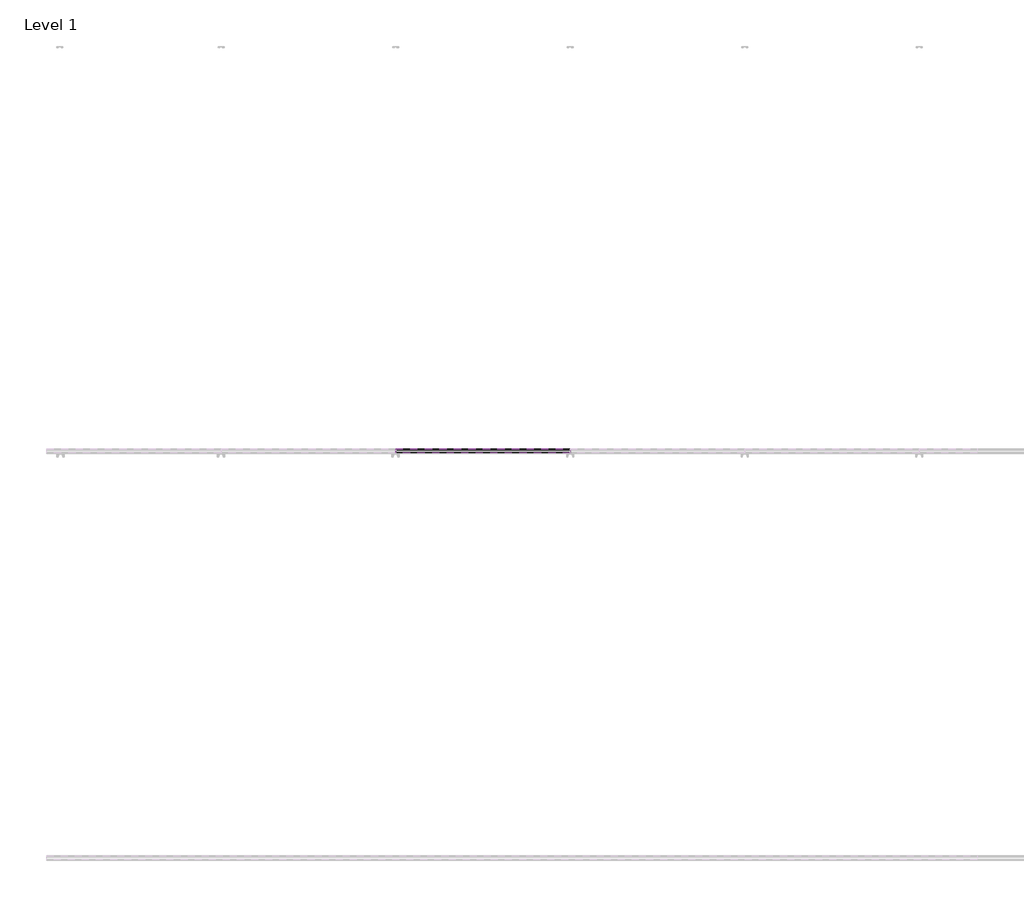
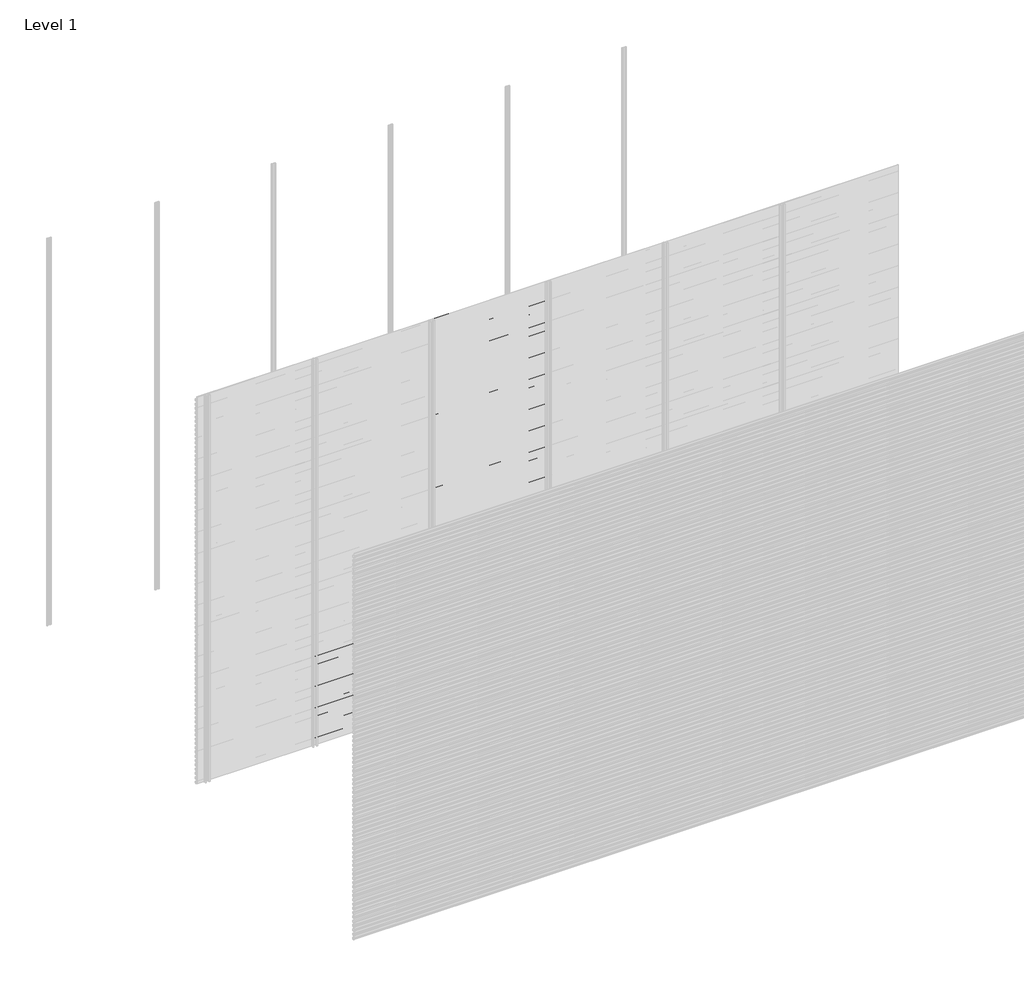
# One storey, part 82 of 96: 76 proxies.
"""IFC4 building model written with IfcOpenShell, lengths in millimetres."""

from ifc_helpers import new_model, si_unit, frame, origin, place, context, project, spatial, polyline, outline, extrude, element, save

model = new_model("IFC4")

# Units and contexts
model_context = context("Model", 3, world=origin())
ifc_project = project(units=[si_unit("LENGTHUNIT", "METRE", prefix="MILLI")], contexts=[model_context])

# Site, building, storey
site = spatial("IfcSite", under=ifc_project)
building = spatial("IfcBuilding", under=site)
storey = spatial("IfcBuildingStorey", under=building, Name="Level 1", Elevation=0.0)

# Proxies
placement = place(None, origin())
element("IfcBuildingElementProxy", 1, Name="Wall Sweeps", at=placement, inside=storey, context=model_context, shape_type="SweptSolid", body=[
    extrude(outline(polyline([(-5977.6, 674.0655033), (-5977.6, 659.7779188), (-5982.4114965, 657.0), (-5982.4114965, 658.2701706), (-5978.85, 660.3264016), (-5978.85, 673.3437382), (-5998.0, 684.4000799), (-5998.0, 699.3), (-5996.75, 699.3), (-5996.75, 685.1217609), (-5977.6, 674.0655033)])), frame((857.1428571, 0.0, 0.0), z_axis=(1.0, 0.0, 0.0), x_axis=(0.0, 1.0, 0.0)), (0.0, 0.0, 1.0), 857.1428571),
])
element("IfcBuildingElementProxy", 2, Name="Wall Sweeps", at=placement, inside=storey, context=model_context, shape_type="SweptSolid", body=[
    extrude(outline(polyline([(-5977.6, 640.7655033), (-5977.6, 626.4779188), (-5982.4114965, 623.7), (-5982.4114965, 624.9701706), (-5978.85, 627.0264016), (-5978.85, 640.0437382), (-5998.0, 651.1000799), (-5998.0, 666.0), (-5996.75, 666.0), (-5996.75, 651.8217609), (-5977.6, 640.7655033)])), frame((857.1428571, 0.0, 0.0), z_axis=(1.0, 0.0, 0.0), x_axis=(0.0, 1.0, 0.0)), (0.0, 0.0, 1.0), 857.1428571),
])
element("IfcBuildingElementProxy", 3, Name="Wall Sweeps", at=placement, inside=storey, context=model_context, shape_type="SweptSolid", body=[
    extrude(outline(polyline([(-5977.6, 607.4655033), (-5977.6, 593.1779188), (-5982.4114965, 590.4), (-5982.4114965, 591.6701706), (-5978.85, 593.7264016), (-5978.85, 606.7437382), (-5998.0, 617.8000799), (-5998.0, 632.7), (-5996.75, 632.7), (-5996.75, 618.5217609), (-5977.6, 607.4655033)])), frame((857.1428571, 0.0, 0.0), z_axis=(1.0, 0.0, 0.0), x_axis=(0.0, 1.0, 0.0)), (0.0, 0.0, 1.0), 857.1428571),
])
element("IfcBuildingElementProxy", 4, Name="Wall Sweeps", at=placement, inside=storey, context=model_context, shape_type="SweptSolid", body=[
    extrude(outline(polyline([(-5977.6, 574.1655033), (-5977.6, 559.8779188), (-5982.4114965, 557.1), (-5982.4114965, 558.3701706), (-5978.85, 560.4264016), (-5978.85, 573.4437382), (-5998.0, 584.5000799), (-5998.0, 599.4), (-5996.75, 599.4), (-5996.75, 585.2217609), (-5977.6, 574.1655033)])), frame((857.1428571, 0.0, 0.0), z_axis=(1.0, 0.0, 0.0), x_axis=(0.0, 1.0, 0.0)), (0.0, 0.0, 1.0), 857.1428571),
])
element("IfcBuildingElementProxy", 5, Name="Wall Sweeps", at=placement, inside=storey, context=model_context, shape_type="SweptSolid", body=[
    extrude(outline(polyline([(-5977.6, 540.8655033), (-5977.6, 526.5779188), (-5982.4114965, 523.8), (-5982.4114965, 525.0701706), (-5978.85, 527.1264016), (-5978.85, 540.1437382), (-5998.0, 551.2000799), (-5998.0, 566.1), (-5996.75, 566.1), (-5996.75, 551.9217609), (-5977.6, 540.8655033)])), frame((857.1428571, 0.0, 0.0), z_axis=(1.0, 0.0, 0.0), x_axis=(0.0, 1.0, 0.0)), (0.0, 0.0, 1.0), 857.1428571),
])
element("IfcBuildingElementProxy", 6, Name="Wall Sweeps", at=placement, inside=storey, context=model_context, shape_type="SweptSolid", body=[
    extrude(outline(polyline([(-5977.6, 507.5655033), (-5977.6, 493.2779188), (-5982.4114965, 490.5), (-5982.4114965, 491.7701706), (-5978.85, 493.8264016), (-5978.85, 506.8437382), (-5998.0, 517.9000799), (-5998.0, 532.8), (-5996.75, 532.8), (-5996.75, 518.6217609), (-5977.6, 507.5655033)])), frame((857.1428571, 0.0, 0.0), z_axis=(1.0, 0.0, 0.0), x_axis=(0.0, 1.0, 0.0)), (0.0, 0.0, 1.0), 857.1428571),
])
element("IfcBuildingElementProxy", 7, Name="Wall Sweeps", at=placement, inside=storey, context=model_context, shape_type="SweptSolid", body=[
    extrude(outline(polyline([(-5977.6, 474.2655033), (-5977.6, 459.9779188), (-5982.4114965, 457.2), (-5982.4114965, 458.4701706), (-5978.85, 460.5264016), (-5978.85, 473.5437382), (-5998.0, 484.6000799), (-5998.0, 499.5), (-5996.75, 499.5), (-5996.75, 485.3217609), (-5977.6, 474.2655033)])), frame((857.1428571, 0.0, 0.0), z_axis=(1.0, 0.0, 0.0), x_axis=(0.0, 1.0, 0.0)), (0.0, 0.0, 1.0), 857.1428571),
])
element("IfcBuildingElementProxy", 8, Name="Wall Sweeps", at=placement, inside=storey, context=model_context, shape_type="SweptSolid", body=[
    extrude(outline(polyline([(-5977.6, 440.9655033), (-5977.6, 426.6779188), (-5982.4114965, 423.9), (-5982.4114965, 425.1701706), (-5978.85, 427.2264016), (-5978.85, 440.2437382), (-5998.0, 451.3000799), (-5998.0, 466.2), (-5996.75, 466.2), (-5996.75, 452.0217609), (-5977.6, 440.9655033)])), frame((857.1428571, 0.0, 0.0), z_axis=(1.0, 0.0, 0.0), x_axis=(0.0, 1.0, 0.0)), (0.0, 0.0, 1.0), 857.1428571),
])
element("IfcBuildingElementProxy", 9, Name="Wall Sweeps", at=placement, inside=storey, context=model_context, shape_type="SweptSolid", body=[
    extrude(outline(polyline([(-5977.6, 407.6655033), (-5977.6, 393.3779188), (-5982.4114965, 390.6), (-5982.4114965, 391.8701706), (-5978.85, 393.9264016), (-5978.85, 406.9437382), (-5998.0, 418.0000799), (-5998.0, 432.9), (-5996.75, 432.9), (-5996.75, 418.7217609), (-5977.6, 407.6655033)])), frame((857.1428571, 0.0, 0.0), z_axis=(1.0, 0.0, 0.0), x_axis=(0.0, 1.0, 0.0)), (0.0, 0.0, 1.0), 857.1428571),
])
element("IfcBuildingElementProxy", 10, Name="Wall Sweeps", at=placement, inside=storey, context=model_context, shape_type="SweptSolid", body=[
    extrude(outline(polyline([(-5977.6, 374.3655033), (-5977.6, 360.0779188), (-5982.4114965, 357.3), (-5982.4114965, 358.5701706), (-5978.85, 360.6264016), (-5978.85, 373.6437382), (-5998.0, 384.7000799), (-5998.0, 399.6), (-5996.75, 399.6), (-5996.75, 385.4217609), (-5977.6, 374.3655033)])), frame((857.1428571, 0.0, 0.0), z_axis=(1.0, 0.0, 0.0), x_axis=(0.0, 1.0, 0.0)), (0.0, 0.0, 1.0), 857.1428571),
])
element("IfcBuildingElementProxy", 11, Name="Wall Sweeps", at=placement, inside=storey, context=model_context, shape_type="SweptSolid", body=[
    extrude(outline(polyline([(-5977.6, 341.0655033), (-5977.6, 326.7779188), (-5982.4114965, 324.0), (-5982.4114965, 325.2701706), (-5978.85, 327.3264016), (-5978.85, 340.3437382), (-5998.0, 351.4000799), (-5998.0, 366.3), (-5996.75, 366.3), (-5996.75, 352.1217609), (-5977.6, 341.0655033)])), frame((857.1428571, 0.0, 0.0), z_axis=(1.0, 0.0, 0.0), x_axis=(0.0, 1.0, 0.0)), (0.0, 0.0, 1.0), 857.1428571),
])
element("IfcBuildingElementProxy", 12, Name="Wall Sweeps", at=placement, inside=storey, context=model_context, shape_type="SweptSolid", body=[
    extrude(outline(polyline([(-5977.6, 307.7655033), (-5977.6, 293.4779188), (-5982.4114965, 290.7), (-5982.4114965, 291.9701706), (-5978.85, 294.0264016), (-5978.85, 307.0437382), (-5998.0, 318.1000799), (-5998.0, 333.0), (-5996.75, 333.0), (-5996.75, 318.8217609), (-5977.6, 307.7655033)])), frame((857.1428571, 0.0, 0.0), z_axis=(1.0, 0.0, 0.0), x_axis=(0.0, 1.0, 0.0)), (0.0, 0.0, 1.0), 857.1428571),
])
element("IfcBuildingElementProxy", 13, Name="Wall Sweeps", at=placement, inside=storey, context=model_context, shape_type="SweptSolid", body=[
    extrude(outline(polyline([(-5977.6, 274.4655033), (-5977.6, 260.1779188), (-5982.4114965, 257.4), (-5982.4114965, 258.6701706), (-5978.85, 260.7264016), (-5978.85, 273.7437382), (-5998.0, 284.8000799), (-5998.0, 299.7), (-5996.75, 299.7), (-5996.75, 285.5217609), (-5977.6, 274.4655033)])), frame((857.1428571, 0.0, 0.0), z_axis=(1.0, 0.0, 0.0), x_axis=(0.0, 1.0, 0.0)), (0.0, 0.0, 1.0), 857.1428571),
])
element("IfcBuildingElementProxy", 14, Name="Wall Sweeps", at=placement, inside=storey, context=model_context, shape_type="SweptSolid", body=[
    extrude(outline(polyline([(-5977.6, 241.1655033), (-5977.6, 226.8779188), (-5982.4114965, 224.1), (-5982.4114965, 225.3701706), (-5978.85, 227.4264016), (-5978.85, 240.4437382), (-5998.0, 251.5000799), (-5998.0, 266.4), (-5996.75, 266.4), (-5996.75, 252.2217609), (-5977.6, 241.1655033)])), frame((857.1428571, 0.0, 0.0), z_axis=(1.0, 0.0, 0.0), x_axis=(0.0, 1.0, 0.0)), (0.0, 0.0, 1.0), 857.1428571),
])
element("IfcBuildingElementProxy", 15, Name="Wall Sweeps", at=placement, inside=storey, context=model_context, shape_type="SweptSolid", body=[
    extrude(outline(polyline([(-5977.6, 207.8655033), (-5977.6, 193.5779188), (-5982.4114965, 190.8), (-5982.4114965, 192.0701706), (-5978.85, 194.1264016), (-5978.85, 207.1437382), (-5998.0, 218.2000799), (-5998.0, 233.1), (-5996.75, 233.1), (-5996.75, 218.9217609), (-5977.6, 207.8655033)])), frame((857.1428571, 0.0, 0.0), z_axis=(1.0, 0.0, 0.0), x_axis=(0.0, 1.0, 0.0)), (0.0, 0.0, 1.0), 857.1428571),
])
element("IfcBuildingElementProxy", 16, Name="Wall Sweeps", at=placement, inside=storey, context=model_context, shape_type="SweptSolid", body=[
    extrude(outline(polyline([(-5977.6, 174.5655033), (-5977.6, 160.2779188), (-5982.4114965, 157.5), (-5982.4114965, 158.7701706), (-5978.85, 160.8264016), (-5978.85, 173.8437382), (-5998.0, 184.9000799), (-5998.0, 199.8), (-5996.75, 199.8), (-5996.75, 185.6217609), (-5977.6, 174.5655033)])), frame((857.1428571, 0.0, 0.0), z_axis=(1.0, 0.0, 0.0), x_axis=(0.0, 1.0, 0.0)), (0.0, 0.0, 1.0), 857.1428571),
])
element("IfcBuildingElementProxy", 17, Name="Wall Sweeps", at=placement, inside=storey, context=model_context, shape_type="SweptSolid", body=[
    extrude(outline(polyline([(-5977.6, 141.2655033), (-5977.6, 126.9779188), (-5982.4114965, 124.2), (-5982.4114965, 125.4701706), (-5978.85, 127.5264016), (-5978.85, 140.5437382), (-5998.0, 151.6000799), (-5998.0, 166.5), (-5996.75, 166.5), (-5996.75, 152.3217609), (-5977.6, 141.2655033)])), frame((857.1428571, 0.0, 0.0), z_axis=(1.0, 0.0, 0.0), x_axis=(0.0, 1.0, 0.0)), (0.0, 0.0, 1.0), 857.1428571),
])
element("IfcBuildingElementProxy", 18, Name="Wall Sweeps", at=placement, inside=storey, context=model_context, shape_type="SweptSolid", body=[
    extrude(outline(polyline([(-5977.6, 107.9655033), (-5977.6, 93.6779188), (-5982.4114965, 90.9), (-5982.4114965, 92.1701706), (-5978.85, 94.2264016), (-5978.85, 107.2437382), (-5998.0, 118.3000799), (-5998.0, 133.2), (-5996.75, 133.2), (-5996.75, 119.0217609), (-5977.6, 107.9655033)])), frame((857.1428571, 0.0, 0.0), z_axis=(1.0, 0.0, 0.0), x_axis=(0.0, 1.0, 0.0)), (0.0, 0.0, 1.0), 857.1428571),
])
element("IfcBuildingElementProxy", 19, Name="Wall Sweeps", at=placement, inside=storey, context=model_context, shape_type="SweptSolid", body=[
    extrude(outline(polyline([(-5977.6, 74.6655033), (-5977.6, 60.3779188), (-5982.4114965, 57.6), (-5982.4114965, 58.8701706), (-5978.85, 60.9264016), (-5978.85, 73.9437382), (-5998.0, 85.0000799), (-5998.0, 99.9), (-5996.75, 99.9), (-5996.75, 85.7217609), (-5977.6, 74.6655033)])), frame((857.1428571, 0.0, 0.0), z_axis=(1.0, 0.0, 0.0), x_axis=(0.0, 1.0, 0.0)), (0.0, 0.0, 1.0), 857.1428571),
])
element("IfcBuildingElementProxy", 20, Name="Wall Sweeps", at=placement, inside=storey, context=model_context, shape_type="SweptSolid", body=[
    extrude(outline(polyline([(-5977.6, 41.3655033), (-5977.6, 27.0779188), (-5982.4114965, 24.3), (-5982.4114965, 25.5701706), (-5978.85, 27.6264016), (-5978.85, 40.6437382), (-5998.0, 51.7000799), (-5998.0, 66.6), (-5996.75, 66.6), (-5996.75, 52.4217609), (-5977.6, 41.3655033)])), frame((857.1428571, 0.0, 0.0), z_axis=(1.0, 0.0, 0.0), x_axis=(0.0, 1.0, 0.0)), (0.0, 0.0, 1.0), 857.1428571),
])
element("IfcBuildingElementProxy", 21, Name="Wall Sweeps", at=placement, inside=storey, context=model_context, shape_type="SweptSolid", body=[
    extrude(outline(polyline([(-5977.6, 8.0655033), (-5977.6, -6.2220812), (-5982.4114965, -9.0), (-5982.4114965, -7.7298294), (-5978.85, -5.6735984), (-5978.85, 7.3437382), (-5998.0, 18.4000799), (-5998.0, 33.3), (-5996.75, 33.3), (-5996.75, 19.1217609), (-5977.6, 8.0655033)])), frame((857.1428571, 0.0, 0.0), z_axis=(1.0, 0.0, 0.0), x_axis=(0.0, 1.0, 0.0)), (0.0, 0.0, 1.0), 857.1428571),
])
element("IfcBuildingElementProxy", 22, Name="Wall Sweeps", at=placement, inside=storey, context=model_context, shape_type="SweptSolid", body=[
    extrude(outline(polyline([(-5977.6, 2971.7655033), (-5977.6, 2957.4779188), (-5982.4114965, 2954.7), (-5982.4114965, 2955.9701706), (-5978.85, 2958.0264016), (-5978.85, 2971.0437382), (-5998.0, 2982.1000799), (-5998.0, 2997.0), (-5996.75, 2997.0), (-5996.75, 2982.8217609), (-5977.6, 2971.7655033)])), frame((1714.2857143, 0.0, 0.0), z_axis=(1.0, 0.0, 0.0), x_axis=(0.0, 1.0, 0.0)), (0.0, 0.0, 1.0), 857.1428571),
])
element("IfcBuildingElementProxy", 23, Name="Wall Sweeps", at=placement, inside=storey, context=model_context, shape_type="SweptSolid", body=[
    extrude(outline(polyline([(-5977.6, 2938.4655033), (-5977.6, 2924.1779188), (-5982.4114965, 2921.4), (-5982.4114965, 2922.6701706), (-5978.85, 2924.7264016), (-5978.85, 2937.7437382), (-5998.0, 2948.8000799), (-5998.0, 2963.7), (-5996.75, 2963.7), (-5996.75, 2949.5217609), (-5977.6, 2938.4655033)])), frame((1714.2857143, 0.0, 0.0), z_axis=(1.0, 0.0, 0.0), x_axis=(0.0, 1.0, 0.0)), (0.0, 0.0, 1.0), 857.1428571),
])
element("IfcBuildingElementProxy", 24, Name="Wall Sweeps", at=placement, inside=storey, context=model_context, shape_type="SweptSolid", body=[
    extrude(outline(polyline([(-5977.6, 2905.1655033), (-5977.6, 2890.8779188), (-5982.4114965, 2888.1), (-5982.4114965, 2889.3701706), (-5978.85, 2891.4264016), (-5978.85, 2904.4437382), (-5998.0, 2915.5000799), (-5998.0, 2930.4), (-5996.75, 2930.4), (-5996.75, 2916.2217609), (-5977.6, 2905.1655033)])), frame((1714.2857143, 0.0, 0.0), z_axis=(1.0, 0.0, 0.0), x_axis=(0.0, 1.0, 0.0)), (0.0, 0.0, 1.0), 857.1428571),
])
element("IfcBuildingElementProxy", 25, Name="Wall Sweeps", at=placement, inside=storey, context=model_context, shape_type="SweptSolid", body=[
    extrude(outline(polyline([(-5977.6, 2871.8655033), (-5977.6, 2857.5779188), (-5982.4114965, 2854.8), (-5982.4114965, 2856.0701706), (-5978.85, 2858.1264016), (-5978.85, 2871.1437382), (-5998.0, 2882.2000799), (-5998.0, 2897.1), (-5996.75, 2897.1), (-5996.75, 2882.9217609), (-5977.6, 2871.8655033)])), frame((1714.2857143, 0.0, 0.0), z_axis=(1.0, 0.0, 0.0), x_axis=(0.0, 1.0, 0.0)), (0.0, 0.0, 1.0), 857.1428571),
])
element("IfcBuildingElementProxy", 26, Name="Wall Sweeps", at=placement, inside=storey, context=model_context, shape_type="SweptSolid", body=[
    extrude(outline(polyline([(-5977.6, 2838.5655033), (-5977.6, 2824.2779188), (-5982.4114965, 2821.5), (-5982.4114965, 2822.7701706), (-5978.85, 2824.8264016), (-5978.85, 2837.8437382), (-5998.0, 2848.9000799), (-5998.0, 2863.8), (-5996.75, 2863.8), (-5996.75, 2849.6217609), (-5977.6, 2838.5655033)])), frame((1714.2857143, 0.0, 0.0), z_axis=(1.0, 0.0, 0.0), x_axis=(0.0, 1.0, 0.0)), (0.0, 0.0, 1.0), 857.1428571),
])
element("IfcBuildingElementProxy", 27, Name="Wall Sweeps", at=placement, inside=storey, context=model_context, shape_type="SweptSolid", body=[
    extrude(outline(polyline([(-5977.6, 2805.2655033), (-5977.6, 2790.9779188), (-5982.4114965, 2788.2), (-5982.4114965, 2789.4701706), (-5978.85, 2791.5264016), (-5978.85, 2804.5437382), (-5998.0, 2815.6000799), (-5998.0, 2830.5), (-5996.75, 2830.5), (-5996.75, 2816.3217609), (-5977.6, 2805.2655033)])), frame((1714.2857143, 0.0, 0.0), z_axis=(1.0, 0.0, 0.0), x_axis=(0.0, 1.0, 0.0)), (0.0, 0.0, 1.0), 857.1428571),
])
element("IfcBuildingElementProxy", 28, Name="Wall Sweeps", at=placement, inside=storey, context=model_context, shape_type="SweptSolid", body=[
    extrude(outline(polyline([(-5977.6, 2771.9655033), (-5977.6, 2757.6779188), (-5982.4114965, 2754.9), (-5982.4114965, 2756.1701706), (-5978.85, 2758.2264016), (-5978.85, 2771.2437382), (-5998.0, 2782.3000799), (-5998.0, 2797.2), (-5996.75, 2797.2), (-5996.75, 2783.0217609), (-5977.6, 2771.9655033)])), frame((1714.2857143, 0.0, 0.0), z_axis=(1.0, 0.0, 0.0), x_axis=(0.0, 1.0, 0.0)), (0.0, 0.0, 1.0), 857.1428571),
])
element("IfcBuildingElementProxy", 29, Name="Wall Sweeps", at=placement, inside=storey, context=model_context, shape_type="SweptSolid", body=[
    extrude(outline(polyline([(-5977.6, 2738.6655033), (-5977.6, 2724.3779188), (-5982.4114965, 2721.6), (-5982.4114965, 2722.8701706), (-5978.85, 2724.9264016), (-5978.85, 2737.9437382), (-5998.0, 2749.0000799), (-5998.0, 2763.9), (-5996.75, 2763.9), (-5996.75, 2749.7217609), (-5977.6, 2738.6655033)])), frame((1714.2857143, 0.0, 0.0), z_axis=(1.0, 0.0, 0.0), x_axis=(0.0, 1.0, 0.0)), (0.0, 0.0, 1.0), 857.1428571),
])
element("IfcBuildingElementProxy", 30, Name="Wall Sweeps", at=placement, inside=storey, context=model_context, shape_type="SweptSolid", body=[
    extrude(outline(polyline([(-5977.6, 2705.3655033), (-5977.6, 2691.0779188), (-5982.4114965, 2688.3), (-5982.4114965, 2689.5701706), (-5978.85, 2691.6264016), (-5978.85, 2704.6437382), (-5998.0, 2715.7000799), (-5998.0, 2730.6), (-5996.75, 2730.6), (-5996.75, 2716.4217609), (-5977.6, 2705.3655033)])), frame((1714.2857143, 0.0, 0.0), z_axis=(1.0, 0.0, 0.0), x_axis=(0.0, 1.0, 0.0)), (0.0, 0.0, 1.0), 857.1428571),
])
element("IfcBuildingElementProxy", 31, Name="Wall Sweeps", at=placement, inside=storey, context=model_context, shape_type="SweptSolid", body=[
    extrude(outline(polyline([(-5977.6, 2672.0655033), (-5977.6, 2657.7779188), (-5982.4114965, 2655.0), (-5982.4114965, 2656.2701706), (-5978.85, 2658.3264016), (-5978.85, 2671.3437382), (-5998.0, 2682.4000799), (-5998.0, 2697.3), (-5996.75, 2697.3), (-5996.75, 2683.1217609), (-5977.6, 2672.0655033)])), frame((1714.2857143, 0.0, 0.0), z_axis=(1.0, 0.0, 0.0), x_axis=(0.0, 1.0, 0.0)), (0.0, 0.0, 1.0), 857.1428571),
])
element("IfcBuildingElementProxy", 32, Name="Wall Sweeps", at=placement, inside=storey, context=model_context, shape_type="SweptSolid", body=[
    extrude(outline(polyline([(-5977.6, 2638.7655033), (-5977.6, 2624.4779188), (-5982.4114965, 2621.7), (-5982.4114965, 2622.9701706), (-5978.85, 2625.0264016), (-5978.85, 2638.0437382), (-5998.0, 2649.1000799), (-5998.0, 2664.0), (-5996.75, 2664.0), (-5996.75, 2649.8217609), (-5977.6, 2638.7655033)])), frame((1714.2857143, 0.0, 0.0), z_axis=(1.0, 0.0, 0.0), x_axis=(0.0, 1.0, 0.0)), (0.0, 0.0, 1.0), 857.1428571),
])
element("IfcBuildingElementProxy", 33, Name="Wall Sweeps", at=placement, inside=storey, context=model_context, shape_type="SweptSolid", body=[
    extrude(outline(polyline([(-5977.6, 2605.4655033), (-5977.6, 2591.1779188), (-5982.4114965, 2588.4), (-5982.4114965, 2589.6701706), (-5978.85, 2591.7264016), (-5978.85, 2604.7437382), (-5998.0, 2615.8000799), (-5998.0, 2630.7), (-5996.75, 2630.7), (-5996.75, 2616.5217609), (-5977.6, 2605.4655033)])), frame((1714.2857143, 0.0, 0.0), z_axis=(1.0, 0.0, 0.0), x_axis=(0.0, 1.0, 0.0)), (0.0, 0.0, 1.0), 857.1428571),
])
element("IfcBuildingElementProxy", 34, Name="Wall Sweeps", at=placement, inside=storey, context=model_context, shape_type="SweptSolid", body=[
    extrude(outline(polyline([(-5977.6, 2572.1655033), (-5977.6, 2557.8779188), (-5982.4114965, 2555.1), (-5982.4114965, 2556.3701706), (-5978.85, 2558.4264016), (-5978.85, 2571.4437382), (-5998.0, 2582.5000799), (-5998.0, 2597.4), (-5996.75, 2597.4), (-5996.75, 2583.2217609), (-5977.6, 2572.1655033)])), frame((1714.2857143, 0.0, 0.0), z_axis=(1.0, 0.0, 0.0), x_axis=(0.0, 1.0, 0.0)), (0.0, 0.0, 1.0), 857.1428571),
])
element("IfcBuildingElementProxy", 35, Name="Wall Sweeps", at=placement, inside=storey, context=model_context, shape_type="SweptSolid", body=[
    extrude(outline(polyline([(-5977.6, 2538.8655033), (-5977.6, 2524.5779188), (-5982.4114965, 2521.8), (-5982.4114965, 2523.0701706), (-5978.85, 2525.1264016), (-5978.85, 2538.1437382), (-5998.0, 2549.2000799), (-5998.0, 2564.1), (-5996.75, 2564.1), (-5996.75, 2549.9217609), (-5977.6, 2538.8655033)])), frame((1714.2857143, 0.0, 0.0), z_axis=(1.0, 0.0, 0.0), x_axis=(0.0, 1.0, 0.0)), (0.0, 0.0, 1.0), 857.1428571),
])
element("IfcBuildingElementProxy", 36, Name="Wall Sweeps", at=placement, inside=storey, context=model_context, shape_type="SweptSolid", body=[
    extrude(outline(polyline([(-5977.6, 2505.5655033), (-5977.6, 2491.2779188), (-5982.4114965, 2488.5), (-5982.4114965, 2489.7701706), (-5978.85, 2491.8264016), (-5978.85, 2504.8437382), (-5998.0, 2515.9000799), (-5998.0, 2530.8), (-5996.75, 2530.8), (-5996.75, 2516.6217609), (-5977.6, 2505.5655033)])), frame((1714.2857143, 0.0, 0.0), z_axis=(1.0, 0.0, 0.0), x_axis=(0.0, 1.0, 0.0)), (0.0, 0.0, 1.0), 857.1428571),
])
element("IfcBuildingElementProxy", 37, Name="Wall Sweeps", at=placement, inside=storey, context=model_context, shape_type="SweptSolid", body=[
    extrude(outline(polyline([(-5977.6, 2472.2655033), (-5977.6, 2457.9779188), (-5982.4114965, 2455.2), (-5982.4114965, 2456.4701706), (-5978.85, 2458.5264016), (-5978.85, 2471.5437382), (-5998.0, 2482.6000799), (-5998.0, 2497.5), (-5996.75, 2497.5), (-5996.75, 2483.3217609), (-5977.6, 2472.2655033)])), frame((1714.2857143, 0.0, 0.0), z_axis=(1.0, 0.0, 0.0), x_axis=(0.0, 1.0, 0.0)), (0.0, 0.0, 1.0), 857.1428571),
])
element("IfcBuildingElementProxy", 38, Name="Wall Sweeps", at=placement, inside=storey, context=model_context, shape_type="SweptSolid", body=[
    extrude(outline(polyline([(-5977.6, 2438.9655033), (-5977.6, 2424.6779188), (-5982.4114965, 2421.9), (-5982.4114965, 2423.1701706), (-5978.85, 2425.2264016), (-5978.85, 2438.2437382), (-5998.0, 2449.3000799), (-5998.0, 2464.2), (-5996.75, 2464.2), (-5996.75, 2450.0217609), (-5977.6, 2438.9655033)])), frame((1714.2857143, 0.0, 0.0), z_axis=(1.0, 0.0, 0.0), x_axis=(0.0, 1.0, 0.0)), (0.0, 0.0, 1.0), 857.1428571),
])
element("IfcBuildingElementProxy", 39, Name="Wall Sweeps", at=placement, inside=storey, context=model_context, shape_type="SweptSolid", body=[
    extrude(outline(polyline([(-5977.6, 2405.6655033), (-5977.6, 2391.3779188), (-5982.4114965, 2388.6), (-5982.4114965, 2389.8701706), (-5978.85, 2391.9264016), (-5978.85, 2404.9437382), (-5998.0, 2416.0000799), (-5998.0, 2430.9), (-5996.75, 2430.9), (-5996.75, 2416.7217609), (-5977.6, 2405.6655033)])), frame((1714.2857143, 0.0, 0.0), z_axis=(1.0, 0.0, 0.0), x_axis=(0.0, 1.0, 0.0)), (0.0, 0.0, 1.0), 857.1428571),
])
element("IfcBuildingElementProxy", 40, Name="Wall Sweeps", at=placement, inside=storey, context=model_context, shape_type="SweptSolid", body=[
    extrude(outline(polyline([(-5977.6, 2372.3655033), (-5977.6, 2358.0779188), (-5982.4114965, 2355.3), (-5982.4114965, 2356.5701706), (-5978.85, 2358.6264016), (-5978.85, 2371.6437382), (-5998.0, 2382.7000799), (-5998.0, 2397.6), (-5996.75, 2397.6), (-5996.75, 2383.4217609), (-5977.6, 2372.3655033)])), frame((1714.2857143, 0.0, 0.0), z_axis=(1.0, 0.0, 0.0), x_axis=(0.0, 1.0, 0.0)), (0.0, 0.0, 1.0), 857.1428571),
])
element("IfcBuildingElementProxy", 41, Name="Wall Sweeps", at=placement, inside=storey, context=model_context, shape_type="SweptSolid", body=[
    extrude(outline(polyline([(-5977.6, 2339.0655033), (-5977.6, 2324.7779188), (-5982.4114965, 2322.0), (-5982.4114965, 2323.2701706), (-5978.85, 2325.3264016), (-5978.85, 2338.3437382), (-5998.0, 2349.4000799), (-5998.0, 2364.3), (-5996.75, 2364.3), (-5996.75, 2350.1217609), (-5977.6, 2339.0655033)])), frame((1714.2857143, 0.0, 0.0), z_axis=(1.0, 0.0, 0.0), x_axis=(0.0, 1.0, 0.0)), (0.0, 0.0, 1.0), 857.1428571),
])
element("IfcBuildingElementProxy", 42, Name="Wall Sweeps", at=placement, inside=storey, context=model_context, shape_type="SweptSolid", body=[
    extrude(outline(polyline([(-5977.6, 2305.7655033), (-5977.6, 2291.4779188), (-5982.4114965, 2288.7), (-5982.4114965, 2289.9701706), (-5978.85, 2292.0264016), (-5978.85, 2305.0437382), (-5998.0, 2316.1000799), (-5998.0, 2331.0), (-5996.75, 2331.0), (-5996.75, 2316.8217609), (-5977.6, 2305.7655033)])), frame((1714.2857143, 0.0, 0.0), z_axis=(1.0, 0.0, 0.0), x_axis=(0.0, 1.0, 0.0)), (0.0, 0.0, 1.0), 857.1428571),
])
element("IfcBuildingElementProxy", 43, Name="Wall Sweeps", at=placement, inside=storey, context=model_context, shape_type="SweptSolid", body=[
    extrude(outline(polyline([(-5977.6, 2272.4655033), (-5977.6, 2258.1779188), (-5982.4114965, 2255.4), (-5982.4114965, 2256.6701706), (-5978.85, 2258.7264016), (-5978.85, 2271.7437382), (-5998.0, 2282.8000799), (-5998.0, 2297.7), (-5996.75, 2297.7), (-5996.75, 2283.5217609), (-5977.6, 2272.4655033)])), frame((1714.2857143, 0.0, 0.0), z_axis=(1.0, 0.0, 0.0), x_axis=(0.0, 1.0, 0.0)), (0.0, 0.0, 1.0), 857.1428571),
])
element("IfcBuildingElementProxy", 44, Name="Wall Sweeps", at=placement, inside=storey, context=model_context, shape_type="SweptSolid", body=[
    extrude(outline(polyline([(-5977.6, 2239.1655033), (-5977.6, 2224.8779188), (-5982.4114965, 2222.1), (-5982.4114965, 2223.3701706), (-5978.85, 2225.4264016), (-5978.85, 2238.4437382), (-5998.0, 2249.5000799), (-5998.0, 2264.4), (-5996.75, 2264.4), (-5996.75, 2250.2217609), (-5977.6, 2239.1655033)])), frame((1714.2857143, 0.0, 0.0), z_axis=(1.0, 0.0, 0.0), x_axis=(0.0, 1.0, 0.0)), (0.0, 0.0, 1.0), 857.1428571),
])
element("IfcBuildingElementProxy", 45, Name="Wall Sweeps", at=placement, inside=storey, context=model_context, shape_type="SweptSolid", body=[
    extrude(outline(polyline([(-5977.6, 2205.8655033), (-5977.6, 2191.5779188), (-5982.4114965, 2188.8), (-5982.4114965, 2190.0701706), (-5978.85, 2192.1264016), (-5978.85, 2205.1437382), (-5998.0, 2216.2000799), (-5998.0, 2231.1), (-5996.75, 2231.1), (-5996.75, 2216.9217609), (-5977.6, 2205.8655033)])), frame((1714.2857143, 0.0, 0.0), z_axis=(1.0, 0.0, 0.0), x_axis=(0.0, 1.0, 0.0)), (0.0, 0.0, 1.0), 857.1428571),
])
element("IfcBuildingElementProxy", 46, Name="Wall Sweeps", at=placement, inside=storey, context=model_context, shape_type="SweptSolid", body=[
    extrude(outline(polyline([(-5977.6, 2172.5655033), (-5977.6, 2158.2779188), (-5982.4114965, 2155.5), (-5982.4114965, 2156.7701706), (-5978.85, 2158.8264016), (-5978.85, 2171.8437382), (-5998.0, 2182.9000799), (-5998.0, 2197.8), (-5996.75, 2197.8), (-5996.75, 2183.6217609), (-5977.6, 2172.5655033)])), frame((1714.2857143, 0.0, 0.0), z_axis=(1.0, 0.0, 0.0), x_axis=(0.0, 1.0, 0.0)), (0.0, 0.0, 1.0), 857.1428571),
])
element("IfcBuildingElementProxy", 47, Name="Wall Sweeps", at=placement, inside=storey, context=model_context, shape_type="SweptSolid", body=[
    extrude(outline(polyline([(-5977.6, 2139.2655033), (-5977.6, 2124.9779188), (-5982.4114965, 2122.2), (-5982.4114965, 2123.4701706), (-5978.85, 2125.5264016), (-5978.85, 2138.5437382), (-5998.0, 2149.6000799), (-5998.0, 2164.5), (-5996.75, 2164.5), (-5996.75, 2150.3217609), (-5977.6, 2139.2655033)])), frame((1714.2857143, 0.0, 0.0), z_axis=(1.0, 0.0, 0.0), x_axis=(0.0, 1.0, 0.0)), (0.0, 0.0, 1.0), 857.1428571),
])
element("IfcBuildingElementProxy", 48, Name="Wall Sweeps", at=placement, inside=storey, context=model_context, shape_type="SweptSolid", body=[
    extrude(outline(polyline([(-5977.6, 2105.9655033), (-5977.6, 2091.6779188), (-5982.4114965, 2088.9), (-5982.4114965, 2090.1701706), (-5978.85, 2092.2264016), (-5978.85, 2105.2437382), (-5998.0, 2116.3000799), (-5998.0, 2131.2), (-5996.75, 2131.2), (-5996.75, 2117.0217609), (-5977.6, 2105.9655033)])), frame((1714.2857143, 0.0, 0.0), z_axis=(1.0, 0.0, 0.0), x_axis=(0.0, 1.0, 0.0)), (0.0, 0.0, 1.0), 857.1428571),
])
element("IfcBuildingElementProxy", 49, Name="Wall Sweeps", at=placement, inside=storey, context=model_context, shape_type="SweptSolid", body=[
    extrude(outline(polyline([(-5977.6, 2072.6655033), (-5977.6, 2058.3779188), (-5982.4114965, 2055.6), (-5982.4114965, 2056.8701706), (-5978.85, 2058.9264016), (-5978.85, 2071.9437382), (-5998.0, 2083.0000799), (-5998.0, 2097.9), (-5996.75, 2097.9), (-5996.75, 2083.7217609), (-5977.6, 2072.6655033)])), frame((1714.2857143, 0.0, 0.0), z_axis=(1.0, 0.0, 0.0), x_axis=(0.0, 1.0, 0.0)), (0.0, 0.0, 1.0), 857.1428571),
])
element("IfcBuildingElementProxy", 50, Name="Wall Sweeps", at=placement, inside=storey, context=model_context, shape_type="SweptSolid", body=[
    extrude(outline(polyline([(-5977.6, 2039.3655033), (-5977.6, 2025.0779188), (-5982.4114965, 2022.3), (-5982.4114965, 2023.5701706), (-5978.85, 2025.6264016), (-5978.85, 2038.6437382), (-5998.0, 2049.7000799), (-5998.0, 2064.6), (-5996.75, 2064.6), (-5996.75, 2050.4217609), (-5977.6, 2039.3655033)])), frame((1714.2857143, 0.0, 0.0), z_axis=(1.0, 0.0, 0.0), x_axis=(0.0, 1.0, 0.0)), (0.0, 0.0, 1.0), 857.1428571),
])
element("IfcBuildingElementProxy", 51, Name="Wall Sweeps", at=placement, inside=storey, context=model_context, shape_type="SweptSolid", body=[
    extrude(outline(polyline([(-5977.6, 2006.0655033), (-5977.6, 1991.7779188), (-5982.4114965, 1989.0), (-5982.4114965, 1990.2701706), (-5978.85, 1992.3264016), (-5978.85, 2005.3437382), (-5998.0, 2016.4000799), (-5998.0, 2031.3), (-5996.75, 2031.3), (-5996.75, 2017.1217609), (-5977.6, 2006.0655033)])), frame((1714.2857143, 0.0, 0.0), z_axis=(1.0, 0.0, 0.0), x_axis=(0.0, 1.0, 0.0)), (0.0, 0.0, 1.0), 857.1428571),
])
element("IfcBuildingElementProxy", 52, Name="Wall Sweeps", at=placement, inside=storey, context=model_context, shape_type="SweptSolid", body=[
    extrude(outline(polyline([(-5977.6, 1972.7655033), (-5977.6, 1958.4779188), (-5982.4114965, 1955.7), (-5982.4114965, 1956.9701706), (-5978.85, 1959.0264016), (-5978.85, 1972.0437382), (-5998.0, 1983.1000799), (-5998.0, 1998.0), (-5996.75, 1998.0), (-5996.75, 1983.8217609), (-5977.6, 1972.7655033)])), frame((1714.2857143, 0.0, 0.0), z_axis=(1.0, 0.0, 0.0), x_axis=(0.0, 1.0, 0.0)), (0.0, 0.0, 1.0), 857.1428571),
])
element("IfcBuildingElementProxy", 53, Name="Wall Sweeps", at=placement, inside=storey, context=model_context, shape_type="SweptSolid", body=[
    extrude(outline(polyline([(-5977.6, 1939.4655033), (-5977.6, 1925.1779188), (-5982.4114965, 1922.4), (-5982.4114965, 1923.6701706), (-5978.85, 1925.7264016), (-5978.85, 1938.7437382), (-5998.0, 1949.8000799), (-5998.0, 1964.7), (-5996.75, 1964.7), (-5996.75, 1950.5217609), (-5977.6, 1939.4655033)])), frame((1714.2857143, 0.0, 0.0), z_axis=(1.0, 0.0, 0.0), x_axis=(0.0, 1.0, 0.0)), (0.0, 0.0, 1.0), 857.1428571),
])
element("IfcBuildingElementProxy", 54, Name="Wall Sweeps", at=placement, inside=storey, context=model_context, shape_type="SweptSolid", body=[
    extrude(outline(polyline([(-5977.6, 1906.1655033), (-5977.6, 1891.8779188), (-5982.4114965, 1889.1), (-5982.4114965, 1890.3701706), (-5978.85, 1892.4264016), (-5978.85, 1905.4437382), (-5998.0, 1916.5000799), (-5998.0, 1931.4), (-5996.75, 1931.4), (-5996.75, 1917.2217609), (-5977.6, 1906.1655033)])), frame((1714.2857143, 0.0, 0.0), z_axis=(1.0, 0.0, 0.0), x_axis=(0.0, 1.0, 0.0)), (0.0, 0.0, 1.0), 857.1428571),
])
element("IfcBuildingElementProxy", 55, Name="Wall Sweeps", at=placement, inside=storey, context=model_context, shape_type="SweptSolid", body=[
    extrude(outline(polyline([(-5977.6, 1872.8655033), (-5977.6, 1858.5779188), (-5982.4114965, 1855.8), (-5982.4114965, 1857.0701706), (-5978.85, 1859.1264016), (-5978.85, 1872.1437382), (-5998.0, 1883.2000799), (-5998.0, 1898.1), (-5996.75, 1898.1), (-5996.75, 1883.9217609), (-5977.6, 1872.8655033)])), frame((1714.2857143, 0.0, 0.0), z_axis=(1.0, 0.0, 0.0), x_axis=(0.0, 1.0, 0.0)), (0.0, 0.0, 1.0), 857.1428571),
])
element("IfcBuildingElementProxy", 56, Name="Wall Sweeps", at=placement, inside=storey, context=model_context, shape_type="SweptSolid", body=[
    extrude(outline(polyline([(-5977.6, 1839.5655033), (-5977.6, 1825.2779188), (-5982.4114965, 1822.5), (-5982.4114965, 1823.7701706), (-5978.85, 1825.8264016), (-5978.85, 1838.8437382), (-5998.0, 1849.9000799), (-5998.0, 1864.8), (-5996.75, 1864.8), (-5996.75, 1850.6217609), (-5977.6, 1839.5655033)])), frame((1714.2857143, 0.0, 0.0), z_axis=(1.0, 0.0, 0.0), x_axis=(0.0, 1.0, 0.0)), (0.0, 0.0, 1.0), 857.1428571),
])
element("IfcBuildingElementProxy", 57, Name="Wall Sweeps", at=placement, inside=storey, context=model_context, shape_type="SweptSolid", body=[
    extrude(outline(polyline([(-5977.6, 1806.2655033), (-5977.6, 1791.9779188), (-5982.4114965, 1789.2), (-5982.4114965, 1790.4701706), (-5978.85, 1792.5264016), (-5978.85, 1805.5437382), (-5998.0, 1816.6000799), (-5998.0, 1831.5), (-5996.75, 1831.5), (-5996.75, 1817.3217609), (-5977.6, 1806.2655033)])), frame((1714.2857143, 0.0, 0.0), z_axis=(1.0, 0.0, 0.0), x_axis=(0.0, 1.0, 0.0)), (0.0, 0.0, 1.0), 857.1428571),
])
element("IfcBuildingElementProxy", 58, Name="Wall Sweeps", at=placement, inside=storey, context=model_context, shape_type="SweptSolid", body=[
    extrude(outline(polyline([(-5977.6, 1772.9655033), (-5977.6, 1758.6779188), (-5982.4114965, 1755.9), (-5982.4114965, 1757.1701706), (-5978.85, 1759.2264016), (-5978.85, 1772.2437382), (-5998.0, 1783.3000799), (-5998.0, 1798.2), (-5996.75, 1798.2), (-5996.75, 1784.0217609), (-5977.6, 1772.9655033)])), frame((1714.2857143, 0.0, 0.0), z_axis=(1.0, 0.0, 0.0), x_axis=(0.0, 1.0, 0.0)), (0.0, 0.0, 1.0), 857.1428571),
])
element("IfcBuildingElementProxy", 59, Name="Wall Sweeps", at=placement, inside=storey, context=model_context, shape_type="SweptSolid", body=[
    extrude(outline(polyline([(-5977.6, 1739.6655033), (-5977.6, 1725.3779188), (-5982.4114965, 1722.6), (-5982.4114965, 1723.8701706), (-5978.85, 1725.9264016), (-5978.85, 1738.9437382), (-5998.0, 1750.0000799), (-5998.0, 1764.9), (-5996.75, 1764.9), (-5996.75, 1750.7217609), (-5977.6, 1739.6655033)])), frame((1714.2857143, 0.0, 0.0), z_axis=(1.0, 0.0, 0.0), x_axis=(0.0, 1.0, 0.0)), (0.0, 0.0, 1.0), 857.1428571),
])
element("IfcBuildingElementProxy", 60, Name="Wall Sweeps", at=placement, inside=storey, context=model_context, shape_type="SweptSolid", body=[
    extrude(outline(polyline([(-5977.6, 1706.3655033), (-5977.6, 1692.0779188), (-5982.4114965, 1689.3), (-5982.4114965, 1690.5701706), (-5978.85, 1692.6264016), (-5978.85, 1705.6437382), (-5998.0, 1716.7000799), (-5998.0, 1731.6), (-5996.75, 1731.6), (-5996.75, 1717.4217609), (-5977.6, 1706.3655033)])), frame((1714.2857143, 0.0, 0.0), z_axis=(1.0, 0.0, 0.0), x_axis=(0.0, 1.0, 0.0)), (0.0, 0.0, 1.0), 857.1428571),
])
element("IfcBuildingElementProxy", 61, Name="Wall Sweeps", at=placement, inside=storey, context=model_context, shape_type="SweptSolid", body=[
    extrude(outline(polyline([(-5977.6, 1673.0655033), (-5977.6, 1658.7779188), (-5982.4114965, 1656.0), (-5982.4114965, 1657.2701706), (-5978.85, 1659.3264016), (-5978.85, 1672.3437382), (-5998.0, 1683.4000799), (-5998.0, 1698.3), (-5996.75, 1698.3), (-5996.75, 1684.1217609), (-5977.6, 1673.0655033)])), frame((1714.2857143, 0.0, 0.0), z_axis=(1.0, 0.0, 0.0), x_axis=(0.0, 1.0, 0.0)), (0.0, 0.0, 1.0), 857.1428571),
])
element("IfcBuildingElementProxy", 62, Name="Wall Sweeps", at=placement, inside=storey, context=model_context, shape_type="SweptSolid", body=[
    extrude(outline(polyline([(-5977.6, 1639.7655033), (-5977.6, 1625.4779188), (-5982.4114965, 1622.7), (-5982.4114965, 1623.9701706), (-5978.85, 1626.0264016), (-5978.85, 1639.0437382), (-5998.0, 1650.1000799), (-5998.0, 1665.0), (-5996.75, 1665.0), (-5996.75, 1650.8217609), (-5977.6, 1639.7655033)])), frame((1714.2857143, 0.0, 0.0), z_axis=(1.0, 0.0, 0.0), x_axis=(0.0, 1.0, 0.0)), (0.0, 0.0, 1.0), 857.1428571),
])
element("IfcBuildingElementProxy", 63, Name="Wall Sweeps", at=placement, inside=storey, context=model_context, shape_type="SweptSolid", body=[
    extrude(outline(polyline([(-5977.6, 1606.4655033), (-5977.6, 1592.1779188), (-5982.4114965, 1589.4), (-5982.4114965, 1590.6701706), (-5978.85, 1592.7264016), (-5978.85, 1605.7437382), (-5998.0, 1616.8000799), (-5998.0, 1631.7), (-5996.75, 1631.7), (-5996.75, 1617.5217609), (-5977.6, 1606.4655033)])), frame((1714.2857143, 0.0, 0.0), z_axis=(1.0, 0.0, 0.0), x_axis=(0.0, 1.0, 0.0)), (0.0, 0.0, 1.0), 857.1428571),
])
element("IfcBuildingElementProxy", 64, Name="Wall Sweeps", at=placement, inside=storey, context=model_context, shape_type="SweptSolid", body=[
    extrude(outline(polyline([(-5977.6, 1573.1655033), (-5977.6, 1558.8779188), (-5982.4114965, 1556.1), (-5982.4114965, 1557.3701706), (-5978.85, 1559.4264016), (-5978.85, 1572.4437382), (-5998.0, 1583.5000799), (-5998.0, 1598.4), (-5996.75, 1598.4), (-5996.75, 1584.2217609), (-5977.6, 1573.1655033)])), frame((1714.2857143, 0.0, 0.0), z_axis=(1.0, 0.0, 0.0), x_axis=(0.0, 1.0, 0.0)), (0.0, 0.0, 1.0), 857.1428571),
])
element("IfcBuildingElementProxy", 65, Name="Wall Sweeps", at=placement, inside=storey, context=model_context, shape_type="SweptSolid", body=[
    extrude(outline(polyline([(-5977.6, 1539.8655033), (-5977.6, 1525.5779188), (-5982.4114965, 1522.8), (-5982.4114965, 1524.0701706), (-5978.85, 1526.1264016), (-5978.85, 1539.1437382), (-5998.0, 1550.2000799), (-5998.0, 1565.1), (-5996.75, 1565.1), (-5996.75, 1550.9217609), (-5977.6, 1539.8655033)])), frame((1714.2857143, 0.0, 0.0), z_axis=(1.0, 0.0, 0.0), x_axis=(0.0, 1.0, 0.0)), (0.0, 0.0, 1.0), 857.1428571),
])
element("IfcBuildingElementProxy", 66, Name="Wall Sweeps", at=placement, inside=storey, context=model_context, shape_type="SweptSolid", body=[
    extrude(outline(polyline([(-5977.6, 1506.5655033), (-5977.6, 1492.2779188), (-5982.4114965, 1489.5), (-5982.4114965, 1490.7701706), (-5978.85, 1492.8264016), (-5978.85, 1505.8437382), (-5998.0, 1516.9000799), (-5998.0, 1531.8), (-5996.75, 1531.8), (-5996.75, 1517.6217609), (-5977.6, 1506.5655033)])), frame((1714.2857143, 0.0, 0.0), z_axis=(1.0, 0.0, 0.0), x_axis=(0.0, 1.0, 0.0)), (0.0, 0.0, 1.0), 857.1428571),
])
element("IfcBuildingElementProxy", 67, Name="Wall Sweeps", at=placement, inside=storey, context=model_context, shape_type="SweptSolid", body=[
    extrude(outline(polyline([(-5977.6, 1473.2655033), (-5977.6, 1458.9779188), (-5982.4114965, 1456.2), (-5982.4114965, 1457.4701706), (-5978.85, 1459.5264016), (-5978.85, 1472.5437382), (-5998.0, 1483.6000799), (-5998.0, 1498.5), (-5996.75, 1498.5), (-5996.75, 1484.3217609), (-5977.6, 1473.2655033)])), frame((1714.2857143, 0.0, 0.0), z_axis=(1.0, 0.0, 0.0), x_axis=(0.0, 1.0, 0.0)), (0.0, 0.0, 1.0), 857.1428571),
])
element("IfcBuildingElementProxy", 68, Name="Wall Sweeps", at=placement, inside=storey, context=model_context, shape_type="SweptSolid", body=[
    extrude(outline(polyline([(-5977.6, 1439.9655033), (-5977.6, 1425.6779188), (-5982.4114965, 1422.9), (-5982.4114965, 1424.1701706), (-5978.85, 1426.2264016), (-5978.85, 1439.2437382), (-5998.0, 1450.3000799), (-5998.0, 1465.2), (-5996.75, 1465.2), (-5996.75, 1451.0217609), (-5977.6, 1439.9655033)])), frame((1714.2857143, 0.0, 0.0), z_axis=(1.0, 0.0, 0.0), x_axis=(0.0, 1.0, 0.0)), (0.0, 0.0, 1.0), 857.1428571),
])
element("IfcBuildingElementProxy", 69, Name="Wall Sweeps", at=placement, inside=storey, context=model_context, shape_type="SweptSolid", body=[
    extrude(outline(polyline([(-5977.6, 1406.6655033), (-5977.6, 1392.3779188), (-5982.4114965, 1389.6), (-5982.4114965, 1390.8701706), (-5978.85, 1392.9264016), (-5978.85, 1405.9437382), (-5998.0, 1417.0000799), (-5998.0, 1431.9), (-5996.75, 1431.9), (-5996.75, 1417.7217609), (-5977.6, 1406.6655033)])), frame((1714.2857143, 0.0, 0.0), z_axis=(1.0, 0.0, 0.0), x_axis=(0.0, 1.0, 0.0)), (0.0, 0.0, 1.0), 857.1428571),
])
element("IfcBuildingElementProxy", 70, Name="Wall Sweeps", at=placement, inside=storey, context=model_context, shape_type="SweptSolid", body=[
    extrude(outline(polyline([(-5977.6, 1373.3655033), (-5977.6, 1359.0779188), (-5982.4114965, 1356.3), (-5982.4114965, 1357.5701706), (-5978.85, 1359.6264016), (-5978.85, 1372.6437382), (-5998.0, 1383.7000799), (-5998.0, 1398.6), (-5996.75, 1398.6), (-5996.75, 1384.4217609), (-5977.6, 1373.3655033)])), frame((1714.2857143, 0.0, 0.0), z_axis=(1.0, 0.0, 0.0), x_axis=(0.0, 1.0, 0.0)), (0.0, 0.0, 1.0), 857.1428571),
])
element("IfcBuildingElementProxy", 71, Name="Wall Sweeps", at=placement, inside=storey, context=model_context, shape_type="SweptSolid", body=[
    extrude(outline(polyline([(-5977.6, 1340.0655033), (-5977.6, 1325.7779188), (-5982.4114965, 1323.0), (-5982.4114965, 1324.2701706), (-5978.85, 1326.3264016), (-5978.85, 1339.3437382), (-5998.0, 1350.4000799), (-5998.0, 1365.3), (-5996.75, 1365.3), (-5996.75, 1351.1217609), (-5977.6, 1340.0655033)])), frame((1714.2857143, 0.0, 0.0), z_axis=(1.0, 0.0, 0.0), x_axis=(0.0, 1.0, 0.0)), (0.0, 0.0, 1.0), 857.1428571),
])
element("IfcBuildingElementProxy", 72, Name="Wall Sweeps", at=placement, inside=storey, context=model_context, shape_type="SweptSolid", body=[
    extrude(outline(polyline([(-5977.6, 1306.7655033), (-5977.6, 1292.4779188), (-5982.4114965, 1289.7), (-5982.4114965, 1290.9701706), (-5978.85, 1293.0264016), (-5978.85, 1306.0437382), (-5998.0, 1317.1000799), (-5998.0, 1332.0), (-5996.75, 1332.0), (-5996.75, 1317.8217609), (-5977.6, 1306.7655033)])), frame((1714.2857143, 0.0, 0.0), z_axis=(1.0, 0.0, 0.0), x_axis=(0.0, 1.0, 0.0)), (0.0, 0.0, 1.0), 857.1428571),
])
element("IfcBuildingElementProxy", 73, Name="Wall Sweeps", at=placement, inside=storey, context=model_context, shape_type="SweptSolid", body=[
    extrude(outline(polyline([(-5977.6, 1273.4655033), (-5977.6, 1259.1779188), (-5982.4114965, 1256.4), (-5982.4114965, 1257.6701706), (-5978.85, 1259.7264016), (-5978.85, 1272.7437382), (-5998.0, 1283.8000799), (-5998.0, 1298.7), (-5996.75, 1298.7), (-5996.75, 1284.5217609), (-5977.6, 1273.4655033)])), frame((1714.2857143, 0.0, 0.0), z_axis=(1.0, 0.0, 0.0), x_axis=(0.0, 1.0, 0.0)), (0.0, 0.0, 1.0), 857.1428571),
])
element("IfcBuildingElementProxy", 74, Name="Wall Sweeps", at=placement, inside=storey, context=model_context, shape_type="SweptSolid", body=[
    extrude(outline(polyline([(-5977.6, 1240.1655033), (-5977.6, 1225.8779188), (-5982.4114965, 1223.1), (-5982.4114965, 1224.3701706), (-5978.85, 1226.4264016), (-5978.85, 1239.4437382), (-5998.0, 1250.5000799), (-5998.0, 1265.4), (-5996.75, 1265.4), (-5996.75, 1251.2217609), (-5977.6, 1240.1655033)])), frame((1714.2857143, 0.0, 0.0), z_axis=(1.0, 0.0, 0.0), x_axis=(0.0, 1.0, 0.0)), (0.0, 0.0, 1.0), 857.1428571),
])
element("IfcBuildingElementProxy", 75, Name="Wall Sweeps", at=placement, inside=storey, context=model_context, shape_type="SweptSolid", body=[
    extrude(outline(polyline([(-5977.6, 1206.8655033), (-5977.6, 1192.5779188), (-5982.4114965, 1189.8), (-5982.4114965, 1191.0701706), (-5978.85, 1193.1264016), (-5978.85, 1206.1437382), (-5998.0, 1217.2000799), (-5998.0, 1232.1), (-5996.75, 1232.1), (-5996.75, 1217.9217609), (-5977.6, 1206.8655033)])), frame((1714.2857143, 0.0, 0.0), z_axis=(1.0, 0.0, 0.0), x_axis=(0.0, 1.0, 0.0)), (0.0, 0.0, 1.0), 857.1428571),
])
element("IfcBuildingElementProxy", 76, Name="Wall Sweeps", at=placement, inside=storey, context=model_context, shape_type="SweptSolid", body=[
    extrude(outline(polyline([(-5977.6, 1173.5655033), (-5977.6, 1159.2779188), (-5982.4114965, 1156.5), (-5982.4114965, 1157.7701706), (-5978.85, 1159.8264016), (-5978.85, 1172.8437382), (-5998.0, 1183.9000799), (-5998.0, 1198.8), (-5996.75, 1198.8), (-5996.75, 1184.6217609), (-5977.6, 1173.5655033)])), frame((1714.2857143, 0.0, 0.0), z_axis=(1.0, 0.0, 0.0), x_axis=(0.0, 1.0, 0.0)), (0.0, 0.0, 1.0), 857.1428571),
])

save(model, "model.ifc")
